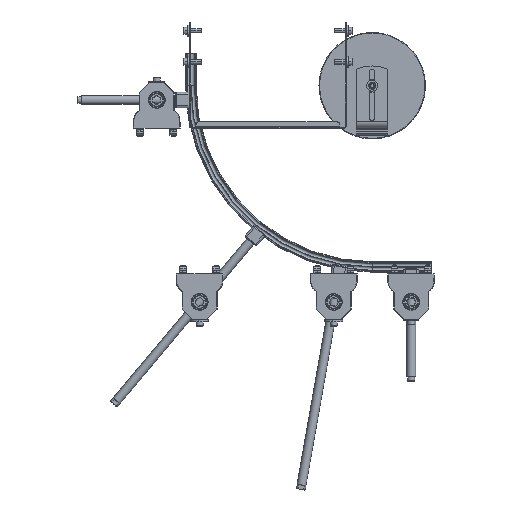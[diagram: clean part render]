
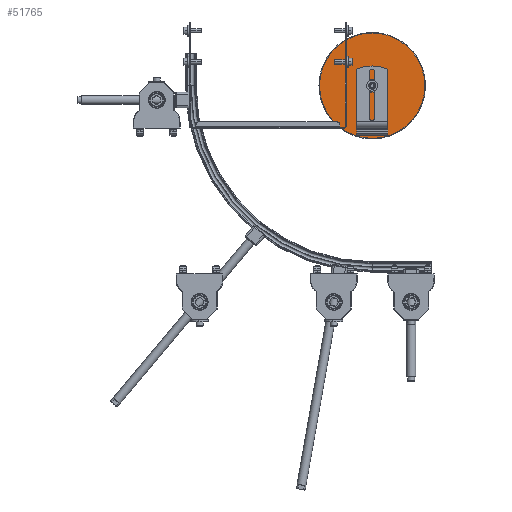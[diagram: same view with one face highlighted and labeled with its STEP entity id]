
A CAD part, front view. The second image highlights one B-rep face of the part: STEP entity #51765.
In plain terms, the highlighted planar face has unit normal (0, -1, 0) as drawn and (0, 1, 0) by its records, which use the part's own axes.
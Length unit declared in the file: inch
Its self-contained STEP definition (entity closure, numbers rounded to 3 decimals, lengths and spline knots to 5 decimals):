
#51609=CARTESIAN_POINT('',(0.,0.405,0.));
#51610=DIRECTION('',(0.,1.,0.));
#51611=DIRECTION('',(0.,0.,1.));
#51612=AXIS2_PLACEMENT_3D('',#51609,#51610,#51611);
#51614=CARTESIAN_POINT('',(0.,0.405,0.));
#51615=DIRECTION('',(0.,1.,0.));
#51616=DIRECTION('',(0.,0.,-1.));
#51617=AXIS2_PLACEMENT_3D('',#51614,#51615,#51616);
#51619=CARTESIAN_POINT('',(0.,0.405,0.));
#51620=DIRECTION('',(0.,-1.,0.));
#51621=DIRECTION('',(0.,0.,-1.));
#51622=AXIS2_PLACEMENT_3D('',#51619,#51620,#51621);
#51624=CARTESIAN_POINT('',(0.,0.405,0.));
#51625=DIRECTION('',(0.,-1.,0.));
#51626=DIRECTION('',(0.,0.,1.));
#51627=AXIS2_PLACEMENT_3D('',#51624,#51625,#51626);
#51681=CARTESIAN_POINT('',(0.,0.405,0.2525));
#51682=CARTESIAN_POINT('',(0.,0.405,-0.2525));
#51683=VERTEX_POINT('',#51681);
#51684=VERTEX_POINT('',#51682);
#51697=CARTESIAN_POINT('',(0.,0.405,-2.97));
#51698=VERTEX_POINT('',#51697);
#51699=CARTESIAN_POINT('',(0.,0.405,2.97));
#51700=VERTEX_POINT('',#51699);
#51750=CARTESIAN_POINT('',(0.,0.405,0.));
#51751=DIRECTION('',(0.,1.,0.));
#51752=DIRECTION('',(0.,0.,1.));
#51753=AXIS2_PLACEMENT_3D('',#51750,#51751,#51752);
#51754=PLANE('',#51753);
#51755=ORIENTED_EDGE('',*,*,#51729,.F.);
#51756=ORIENTED_EDGE('',*,*,#51742,.F.);
#51757=EDGE_LOOP('',(#51755,#51756));
#51758=FACE_OUTER_BOUND('',#51757,.F.);
#51760=ORIENTED_EDGE('',*,*,#51759,.F.);
#51762=ORIENTED_EDGE('',*,*,#51761,.F.);
#51763=EDGE_LOOP('',(#51760,#51762));
#51764=FACE_BOUND('',#51763,.F.);
#51613=CIRCLE('',#51612,2.97);
#51618=CIRCLE('',#51617,2.97);
#51623=CIRCLE('',#51622,0.2525);
#51628=CIRCLE('',#51627,0.2525);
#51729=EDGE_CURVE('',#51700,#51698,#51613,.T.);
#51742=EDGE_CURVE('',#51698,#51700,#51618,.T.);
#51759=EDGE_CURVE('',#51684,#51683,#51623,.T.);
#51761=EDGE_CURVE('',#51683,#51684,#51628,.T.);
#51765=ADVANCED_FACE('',(#51758,#51764),#51754,.T.);
